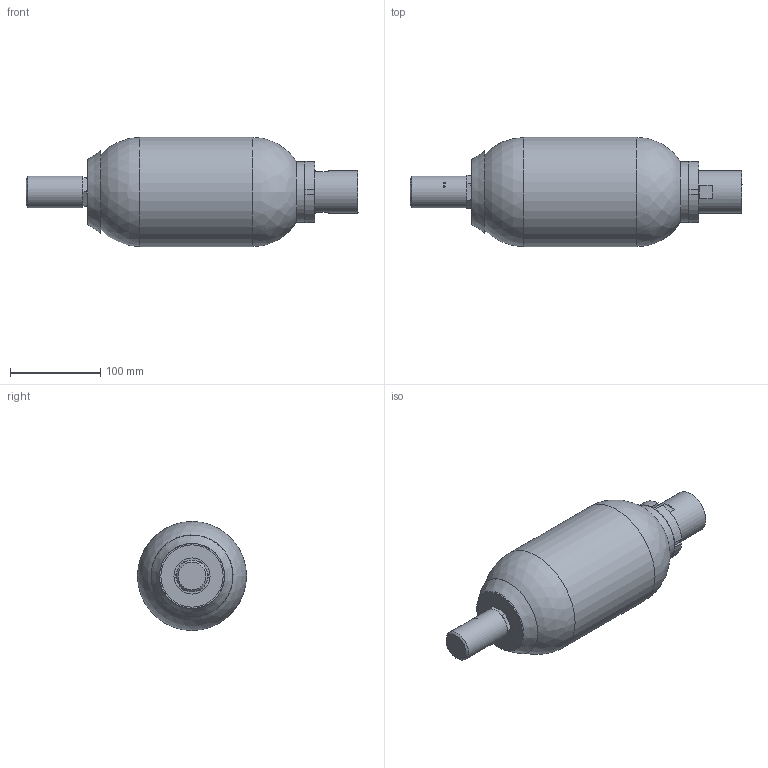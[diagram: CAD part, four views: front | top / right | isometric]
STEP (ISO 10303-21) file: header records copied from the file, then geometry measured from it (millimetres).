
FILE_DESCRIPTION((''),'2;1');
FILE_NAME('F:\STEP\ALLEGE\GAMME_EHV_STD_690bar\EHV_1_690_90.stp','2011-03-04T15:05:58',('laurent.simeon'),(''),'Autodesk Inventor 2011','Autodesk Inventor 2011','');
FILE_SCHEMA(('AUTOMOTIVE_DESIGN { 1 0 10303 214 1 1 1 1 }'));
Length unit declared in the file: millimetre
Products named in the file (18): EHV_1_690_90; AC109101-01125; CA109026-00190(1); CA109026-00190; BE109156-00200; CB109144-00200(1); CB109144-00200; EC100986-00200(1); EC100986-00200; BE100291-00200(1); BE100291-00200; EC102958-00200(1); EC102958-00200; PF108610-05200(1); PF108610-05200; BP085347-00200(1); BP085347-00200
Assembly tree (17 placements, depth 5):
  EHV_1_690_90
    AC109101-01125
      CA109026-00190(1)
        CA109026-00190
      BE109156-00200
        CB109144-00200(1)
          CB109144-00200
        EC100986-00200(1)
          EC100986-00200
        BE100291-00200(1)
          BE100291-00200
      EC102958-00200(1)
        EC102958-00200
      PF108610-05200(1)
        PF108610-05200
      BP085347-00200(1)
        BP085347-00200
    AC109101-01125
Bounding box: 368.2 x 121 x 121 mm (x, y, z)
Volume: 1047534.9 mm3; surface area: 238756.1 mm2
Topology: 7 solids, 7 shells, 148 faces, 354 edges, 217 vertices
Faces by surface type: plane 58, cylinder 41, cone 27, torus 18, sphere 3, bspline 1
Full cylindrical faces by diameter (mm): 2 x2, 6.5 x8, 8 x1, 11.5 x1, 13 x1, 20.68 x1, 22.52 x1, 27 x1, 28 x1, 29.5 x1, 29.9 x1, 31 x1, 31.77 x1, 33.7 x1, 35 x1, 47.5 x1, 48 x1, 48.5 x1, 50 x1, 51.8 x2, 60.8 x1, 60.91 x1, 61 x1, 67 x1, 100 x1, 121 x1
Entity records: 4512 total; most frequent: CARTESIAN_POINT 955, DIRECTION 742, ORIENTED_EDGE 520, AXIS2_PLACEMENT_3D 340, EDGE_CURVE 260, EDGE_LOOP 248, VERTEX_POINT 194, CIRCLE 158
